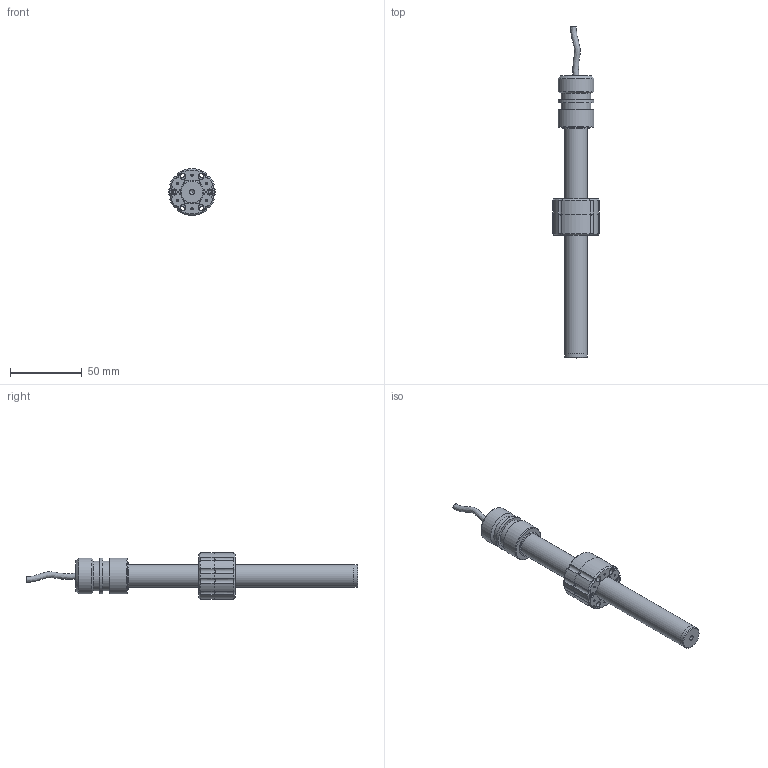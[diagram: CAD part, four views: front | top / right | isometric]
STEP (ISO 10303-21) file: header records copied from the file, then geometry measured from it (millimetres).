
FILE_DESCRIPTION (( 'STEP AP214' ), '1' );
FILE_NAME ('HEM16 intern flange.STEP', '2019-04-24T13:26:38', ( '' ), ( '' ), 'SwSTEP 2.0', 'SolidWorks 2017', '' );
FILE_SCHEMA (( 'AUTOMOTIVE_DESIGN' ));
Length unit declared in the file: millimetre
Products named in the file (11): HEM16 intern flange; CUS852X; FLA005-FX; INS003X; CUS853X; TAP002X; TUB861X; PCUR032X; MIM803X_MIM803; PMEV2 cable1; PUN011X
Assembly tree (12 placements, depth 3):
  HEM16 intern flange
    TAP002X
    PUN011X
    PCUR032X
      CUS853X
      MIM803X_MIM803  x2
      INS003X  x2
      CUS852X
    TUB861X
    FLA005-FX
    PMEV2 cable1
Bounding box: 32.78 x 231.7 x 32.8 mm (x, y, z)
Volume: 38642.5 mm3; surface area: 35336.9 mm2
Topology: 11 solids, 11 shells, 532 faces, 1169 edges, 674 vertices
Faces by surface type: cylinder 222, cone 220, plane 81, torus 4, sphere 4, bspline 1
Full cylindrical faces by diameter (mm): 1.5 x12, 1.7 x8, 2.05 x2, 2.5 x90, 2.6 x4, 3.3 x1, 3.9 x2, 4.1 x8, 4.2 x3, 4.5 x4, 4.6 x2, 12.8 x1, 12.93 x1, 13 x1, 15 x1, 16 x4, 18.2 x1, 20.9 x2, 25 x3
Entity records: 10216 total; most frequent: CARTESIAN_POINT 1916, DIRECTION 1842, ORIENTED_EDGE 1238, AXIS2_PLACEMENT_3D 865, EDGE_LOOP 664, EDGE_CURVE 619, VERTEX_POINT 487, FACE_OUTER_BOUND 483
